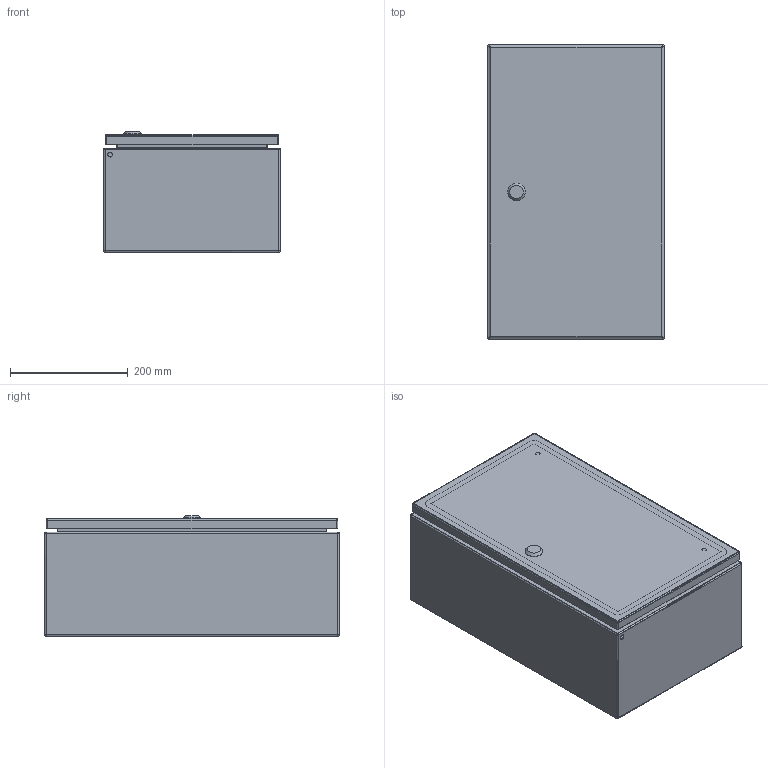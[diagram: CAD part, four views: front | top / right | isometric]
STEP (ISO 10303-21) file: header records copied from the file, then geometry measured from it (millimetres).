
FILE_DESCRIPTION (( 'STEP AP203' ), '1' );
FILE_NAME ('EC030520EE.STEP', '2023-08-31T11:45:14', ( '' ), ( '' ), 'SwSTEP 2.0', 'SolidWorks 2022', '' );
FILE_SCHEMA (( 'CONFIG_CONTROL_DESIGN' ));
Length unit declared in the file: millimetre
Products named in the file (6): AR_ECOR_X_Piastra_05; AR_EC_EE_chiusura_std_STD; AR_EC_EE_involucro_0300x0500x0200; AR_EC_EE_porta_singola_0300x0500; EC030520EE; AR_EC_EE_montaggio_porta_singola_0300x0500
Assembly tree (5 placements, depth 3):
  EC030520EE
    AR_EC_EE_involucro_0300x0500x0200
    AR_ECOR_X_Piastra_05
    AR_EC_EE_montaggio_porta_singola_0300x0500
      AR_EC_EE_porta_singola_0300x0500
      AR_EC_EE_chiusura_std_STD
Bounding box: 300 x 500 x 205 mm (x, y, z)
Volume: 1232695 mm3; surface area: 1553292.9 mm2
Topology: 4 solids, 4 shells, 252 faces, 571 edges, 330 vertices
Faces by surface type: cylinder 122, plane 95, sphere 20, cone 6, torus 5, bspline 4
Full cylindrical faces by diameter (mm): 4.5 x8, 5.5 x2, 6 x3, 7 x4, 8 x7, 8.2 x5, 9.5 x4, 10 x8, 14 x4, 30 x1
Entity records: 7562 total; most frequent: CARTESIAN_POINT 1525, DIRECTION 1191, ORIENTED_EDGE 974, EDGE_CURVE 487, AXIS2_PLACEMENT_3D 476, EDGE_LOOP 380, VERTEX_POINT 323, FACE_OUTER_BOUND 299
